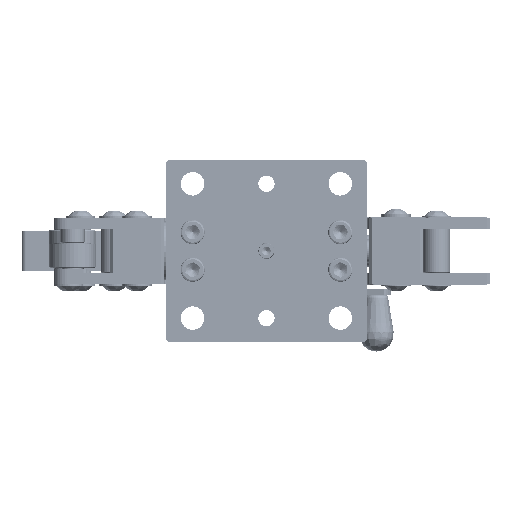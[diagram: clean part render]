
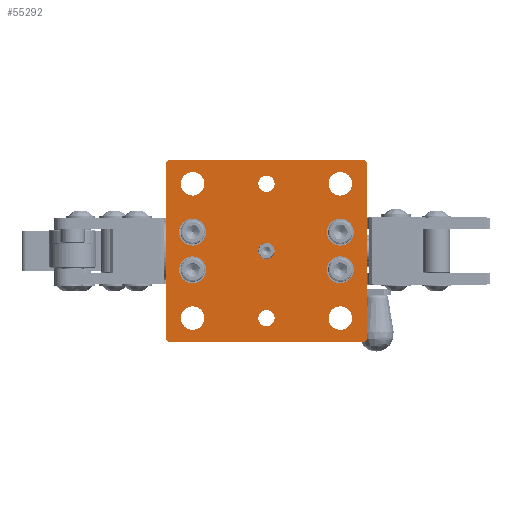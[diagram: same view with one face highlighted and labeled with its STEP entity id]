
A CAD part, left-side view. The second image highlights one B-rep face of the part: STEP entity #55292.
In plain terms, the highlighted planar face has unit normal (-1, 0, 0) as drawn and (0, 0, -1) by its records, which use the part's own axes.
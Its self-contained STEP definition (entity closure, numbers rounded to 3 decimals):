
#3971=FACE_BOUND('',#12198,.T.);
#3972=FACE_BOUND('',#12199,.T.);
#3973=FACE_BOUND('',#12200,.T.);
#3974=FACE_BOUND('',#12201,.T.);
#3975=FACE_BOUND('',#12202,.T.);
#3976=FACE_BOUND('',#12203,.T.);
#3977=FACE_BOUND('',#12204,.T.);
#3978=FACE_BOUND('',#12205,.T.);
#3979=FACE_BOUND('',#12206,.T.);
#3980=FACE_BOUND('',#12207,.T.);
#3981=FACE_BOUND('',#12208,.T.);
#5769=PLANE('',#58161);
#8632=FACE_OUTER_BOUND('',#12197,.T.);
#12197=EDGE_LOOP('',(#50994,#50995,#50996,#50997,#50998,#50999,#51000,#51001));
#12198=EDGE_LOOP('',(#51002));
#12199=EDGE_LOOP('',(#51003));
#12200=EDGE_LOOP('',(#51004));
#12201=EDGE_LOOP('',(#51005));
#12202=EDGE_LOOP('',(#51006));
#12203=EDGE_LOOP('',(#51007));
#12204=EDGE_LOOP('',(#51008));
#12205=EDGE_LOOP('',(#51009));
#12206=EDGE_LOOP('',(#51010));
#12207=EDGE_LOOP('',(#51011));
#12208=EDGE_LOOP('',(#51012));
#17605=LINE('',#96940,#22917);
#17612=LINE('',#96952,#22924);
#17618=LINE('',#96964,#22930);
#17620=LINE('',#96968,#22932);
#17622=LINE('',#96974,#22934);
#17624=LINE('',#96978,#22936);
#17629=LINE('',#96986,#22941);
#17632=LINE('',#97037,#22944);
#22917=VECTOR('',#68474,2.828);
#22924=VECTOR('',#68483,131.);
#22930=VECTOR('',#68493,2.828);
#22932=VECTOR('',#68497,146.);
#22934=VECTOR('',#68503,2.828);
#22936=VECTOR('',#68507,131.);
#22941=VECTOR('',#68514,2.828);
#22944=VECTOR('',#68581,146.);
#23730=CIRCLE('',#58087,6.05);
#23732=CIRCLE('',#58090,6.05);
#23734=CIRCLE('',#58093,6.05);
#23737=CIRCLE('',#58099,8.75);
#23741=CIRCLE('',#58106,8.75);
#23745=CIRCLE('',#58113,8.75);
#23748=CIRCLE('',#58119,8.75);
#23755=CIRCLE('',#58140,10.);
#23758=CIRCLE('',#58146,10.);
#23761=CIRCLE('',#58152,10.);
#23764=CIRCLE('',#58158,10.);
#28628=VERTEX_POINT('',#96881);
#28630=VERTEX_POINT('',#96886);
#28632=VERTEX_POINT('',#96891);
#28635=VERTEX_POINT('',#96900);
#28639=VERTEX_POINT('',#96911);
#28643=VERTEX_POINT('',#96922);
#28646=VERTEX_POINT('',#96931);
#28649=VERTEX_POINT('',#96937);
#28650=VERTEX_POINT('',#96939);
#28654=VERTEX_POINT('',#96950);
#28658=VERTEX_POINT('',#96962);
#28659=VERTEX_POINT('',#96966);
#28660=VERTEX_POINT('',#96971);
#28661=VERTEX_POINT('',#96973);
#28662=VERTEX_POINT('',#96977);
#28671=VERTEX_POINT('',#97006);
#28674=VERTEX_POINT('',#97015);
#28677=VERTEX_POINT('',#97024);
#28680=VERTEX_POINT('',#97033);
#36150=EDGE_CURVE('',#28628,#28628,#23730,.T.);
#36152=EDGE_CURVE('',#28630,#28630,#23732,.T.);
#36154=EDGE_CURVE('',#28632,#28632,#23734,.T.);
#36157=EDGE_CURVE('',#28635,#28635,#23737,.T.);
#36161=EDGE_CURVE('',#28639,#28639,#23741,.T.);
#36165=EDGE_CURVE('',#28643,#28643,#23745,.T.);
#36168=EDGE_CURVE('',#28646,#28646,#23748,.T.);
#36171=EDGE_CURVE('',#28649,#28650,#17605,.T.);
#36178=EDGE_CURVE('',#28649,#28654,#17612,.T.);
#36184=EDGE_CURVE('',#28658,#28654,#17618,.T.);
#36186=EDGE_CURVE('',#28658,#28659,#17620,.T.);
#36188=EDGE_CURVE('',#28660,#28661,#17622,.T.);
#36190=EDGE_CURVE('',#28662,#28661,#17624,.T.);
#36195=EDGE_CURVE('',#28662,#28659,#17629,.T.);
#36204=EDGE_CURVE('',#28671,#28671,#23755,.T.);
#36207=EDGE_CURVE('',#28674,#28674,#23758,.T.);
#36210=EDGE_CURVE('',#28677,#28677,#23761,.T.);
#36213=EDGE_CURVE('',#28680,#28680,#23764,.T.);
#36214=EDGE_CURVE('',#28660,#28650,#17632,.T.);
#50994=ORIENTED_EDGE('',*,*,#36171,.F.);
#50995=ORIENTED_EDGE('',*,*,#36178,.T.);
#50996=ORIENTED_EDGE('',*,*,#36184,.F.);
#50997=ORIENTED_EDGE('',*,*,#36186,.T.);
#50998=ORIENTED_EDGE('',*,*,#36195,.F.);
#50999=ORIENTED_EDGE('',*,*,#36190,.T.);
#51000=ORIENTED_EDGE('',*,*,#36188,.F.);
#51001=ORIENTED_EDGE('',*,*,#36214,.T.);
#51002=ORIENTED_EDGE('',*,*,#36150,.T.);
#51003=ORIENTED_EDGE('',*,*,#36152,.T.);
#51004=ORIENTED_EDGE('',*,*,#36154,.T.);
#51005=ORIENTED_EDGE('',*,*,#36157,.T.);
#51006=ORIENTED_EDGE('',*,*,#36161,.T.);
#51007=ORIENTED_EDGE('',*,*,#36165,.T.);
#51008=ORIENTED_EDGE('',*,*,#36168,.T.);
#51009=ORIENTED_EDGE('',*,*,#36204,.T.);
#51010=ORIENTED_EDGE('',*,*,#36207,.T.);
#51011=ORIENTED_EDGE('',*,*,#36210,.T.);
#51012=ORIENTED_EDGE('',*,*,#36213,.T.);
#55292=ADVANCED_FACE('',(#8632,#3971,#3972,#3973,#3974,#3975,#3976,#3977,
#3978,#3979,#3980,#3981),#5769,.F.);
#58087=AXIS2_PLACEMENT_3D('',#96882,#68404,#68405);
#58090=AXIS2_PLACEMENT_3D('',#96887,#68410,#68411);
#58093=AXIS2_PLACEMENT_3D('',#96892,#68416,#68417);
#58099=AXIS2_PLACEMENT_3D('',#96901,#68428,#68429);
#58106=AXIS2_PLACEMENT_3D('',#96912,#68442,#68443);
#58113=AXIS2_PLACEMENT_3D('',#96923,#68456,#68457);
#58119=AXIS2_PLACEMENT_3D('',#96932,#68468,#68469);
#58140=AXIS2_PLACEMENT_3D('',#97007,#68539,#68540);
#58146=AXIS2_PLACEMENT_3D('',#97016,#68551,#68552);
#58152=AXIS2_PLACEMENT_3D('',#97025,#68563,#68564);
#58158=AXIS2_PLACEMENT_3D('',#97034,#68575,#68576);
#58161=AXIS2_PLACEMENT_3D('',#97038,#68582,#68583);
#68404=DIRECTION('center_axis',(0.,0.,1.));
#68405=DIRECTION('ref_axis',(1.,0.,0.));
#68410=DIRECTION('center_axis',(0.,0.,1.));
#68411=DIRECTION('ref_axis',(1.,0.,0.));
#68416=DIRECTION('center_axis',(0.,0.,1.));
#68417=DIRECTION('ref_axis',(1.,0.,0.));
#68428=DIRECTION('center_axis',(0.,0.,1.));
#68429=DIRECTION('ref_axis',(1.,0.,0.));
#68442=DIRECTION('center_axis',(0.,0.,1.));
#68443=DIRECTION('ref_axis',(1.,0.,0.));
#68456=DIRECTION('center_axis',(0.,0.,1.));
#68457=DIRECTION('ref_axis',(1.,0.,0.));
#68468=DIRECTION('center_axis',(0.,0.,1.));
#68469=DIRECTION('ref_axis',(1.,0.,0.));
#68474=DIRECTION('',(-0.707,-0.707,0.));
#68483=DIRECTION('',(1.,0.,0.));
#68493=DIRECTION('',(-0.707,0.707,0.));
#68497=DIRECTION('',(0.,-1.,0.));
#68503=DIRECTION('',(0.707,-0.707,0.));
#68507=DIRECTION('',(-1.,0.,0.));
#68514=DIRECTION('',(0.707,0.707,0.));
#68539=DIRECTION('center_axis',(0.,0.,1.));
#68540=DIRECTION('ref_axis',(-1.,0.,0.));
#68551=DIRECTION('center_axis',(0.,0.,1.));
#68552=DIRECTION('ref_axis',(-1.,0.,0.));
#68563=DIRECTION('center_axis',(0.,0.,1.));
#68564=DIRECTION('ref_axis',(-1.,0.,0.));
#68575=DIRECTION('center_axis',(0.,0.,1.));
#68576=DIRECTION('ref_axis',(-1.,0.,0.));
#68581=DIRECTION('',(0.,1.,0.));
#68582=DIRECTION('center_axis',(0.,0.,1.));
#68583=DIRECTION('ref_axis',(1.,0.,0.));
#96881=CARTESIAN_POINT('',(-6.05,0.,0.));
#96882=CARTESIAN_POINT('Origin',(0.,0.,0.));
#96886=CARTESIAN_POINT('',(-56.05,0.,0.));
#96887=CARTESIAN_POINT('Origin',(-50.,0.,0.));
#96891=CARTESIAN_POINT('',(43.95,0.,0.));
#96892=CARTESIAN_POINT('Origin',(50.,0.,0.));
#96900=CARTESIAN_POINT('',(41.25,-55.,0.));
#96901=CARTESIAN_POINT('Origin',(50.,-55.,0.));
#96911=CARTESIAN_POINT('',(-58.75,55.,0.));
#96912=CARTESIAN_POINT('Origin',(-50.,55.,0.));
#96922=CARTESIAN_POINT('',(-58.75,-55.,0.));
#96923=CARTESIAN_POINT('Origin',(-50.,-55.,0.));
#96931=CARTESIAN_POINT('',(41.25,55.,0.));
#96932=CARTESIAN_POINT('Origin',(50.,55.,0.));
#96937=CARTESIAN_POINT('',(-65.5,75.,0.));
#96939=CARTESIAN_POINT('',(-67.5,73.,0.));
#96940=CARTESIAN_POINT('',(-68.375,72.125,0.));
#96950=CARTESIAN_POINT('',(65.5,75.,0.));
#96952=CARTESIAN_POINT('',(-67.5,75.,0.));
#96962=CARTESIAN_POINT('',(67.5,73.,0.));
#96964=CARTESIAN_POINT('',(68.375,72.125,0.));
#96966=CARTESIAN_POINT('',(67.5,-73.,0.));
#96968=CARTESIAN_POINT('',(67.5,75.,0.));
#96971=CARTESIAN_POINT('',(-67.5,-73.,0.));
#96973=CARTESIAN_POINT('',(-65.5,-75.,0.));
#96974=CARTESIAN_POINT('',(-68.375,-72.125,0.));
#96977=CARTESIAN_POINT('',(65.5,-75.,0.));
#96978=CARTESIAN_POINT('',(67.5,-75.,0.));
#96986=CARTESIAN_POINT('',(68.375,-72.125,0.));
#97006=CARTESIAN_POINT('',(-24.,-55.,0.));
#97007=CARTESIAN_POINT('Origin',(-14.,-55.,0.));
#97015=CARTESIAN_POINT('',(4.,55.,0.));
#97016=CARTESIAN_POINT('Origin',(14.,55.,0.));
#97024=CARTESIAN_POINT('',(4.,-55.,0.));
#97025=CARTESIAN_POINT('Origin',(14.,-55.,0.));
#97033=CARTESIAN_POINT('',(-24.,55.,0.));
#97034=CARTESIAN_POINT('Origin',(-14.,55.,0.));
#97037=CARTESIAN_POINT('',(-67.5,-75.,0.));
#97038=CARTESIAN_POINT('Origin',(0.,0.,0.));
